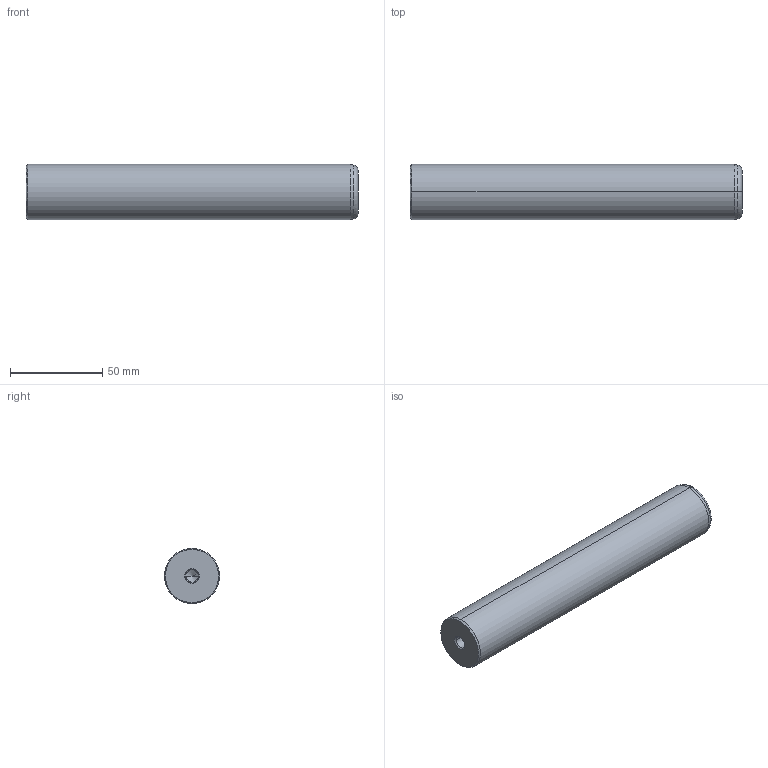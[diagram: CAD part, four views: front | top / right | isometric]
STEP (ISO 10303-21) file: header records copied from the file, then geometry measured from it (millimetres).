
FILE_DESCRIPTION(('CATIA V5 STEP Exchange'),'2;1');
FILE_NAME('C:\Users\Utente\Desktop\IO LAVORO\3D X SITO CF\X SITO\720\720-30x180.stp','2021-01-01T12:32:44+00:00',('none'),('none'),'CATIA Version 5 Release 20 GA (IN-10)','CATIA V5 STEP AP203','none');
FILE_SCHEMA(('CONFIG_CONTROL_DESIGN'));
Length unit declared in the file: millimetre
Products named in the file (1): 720-30x180
Bounding box: 180 x 30 x 30 mm (x, y, z)
Volume: 125203.7 mm3; surface area: 19175.3 mm2
Topology: 1 solids, 1 shells, 22 faces, 56 edges, 34 vertices
Faces by surface type: cone 12, cylinder 6, plane 2, torus 2
Entity records: 755 total; most frequent: CARTESIAN_POINT 216, ORIENTED_EDGE 104, DIRECTION 89, EDGE_CURVE 52, AXIS2_PLACEMENT_3D 50, VERTEX_POINT 34, CIRCLE 27, EDGE_LOOP 24
